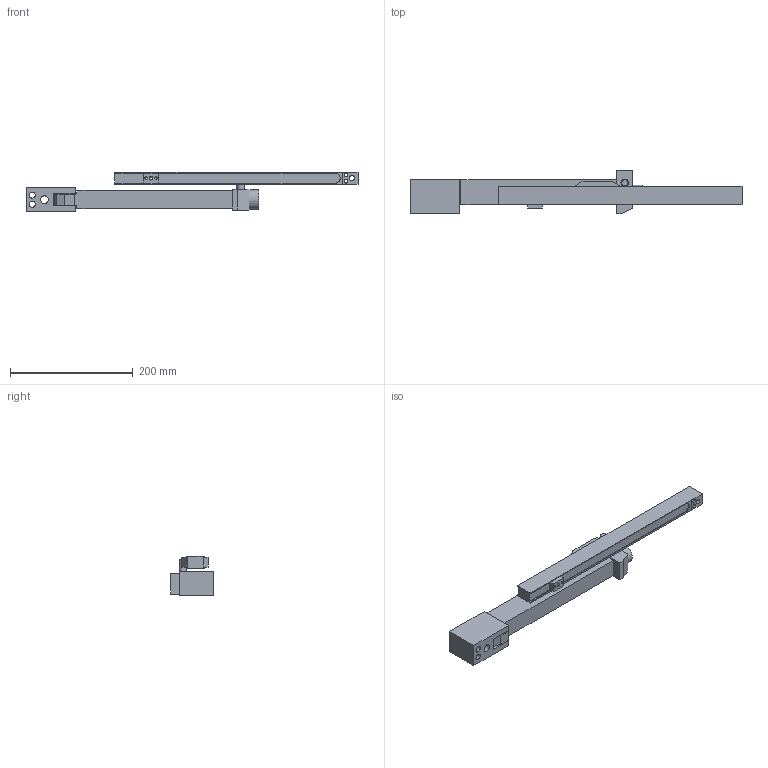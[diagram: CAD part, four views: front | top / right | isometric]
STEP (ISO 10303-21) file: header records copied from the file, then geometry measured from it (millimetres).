
FILE_DESCRIPTION( ( 'STEP AP214' ), '1' );
FILE_NAME( 'p:/temp/worker_2/temp/exporttempdir_3904_220_oIyiO/format_0/BOX400FIX.stp', '2021-02-11T19:35:17', ( 'License CC BY-ND 4.0' ), ( 'CADENAS' ), ' ', 'PARTsolutions', ' ' );
FILE_SCHEMA( ( 'AUTOMOTIVE_DESIGN { 1 0 10303 214 1 1 1 1 }' ) );
Length unit declared in the file: millimetre
Products named in the file (3): BOX400FIX; _ZH 91/A1; _ZH 91/B2
Assembly tree (2 placements, depth 2):
  BOX400FIX
    _ZH 91/A1
    _ZH 91/B2
Bounding box: 540.5 x 70 x 65 mm (x, y, z)
Volume: 754751.3 mm3; surface area: 130325.6 mm2
Topology: 2 solids, 3 shells, 103 faces, 253 edges, 164 vertices
Faces by surface type: plane 72, cylinder 24, cone 7
Full cylindrical faces by diameter (mm): 4 x2, 4.917 x2, 6 x3, 8.4 x1, 10 x3, 11 x1, 12 x2, 12.5 x3, 13.835 x1, 32 x1
Entity records: 3735 total; most frequent: DIRECTION 485, CARTESIAN_POINT 484, ORIENTED_EDGE 440, EDGE_CURVE 220, LINE 167, VECTOR 167, AXIS2_PLACEMENT_3D 159, VERTEX_POINT 158
